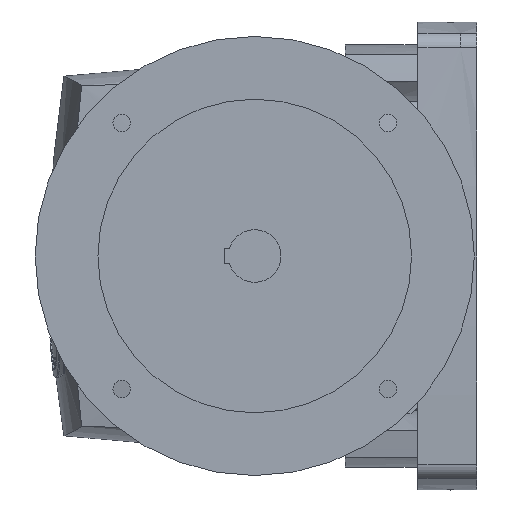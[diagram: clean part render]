
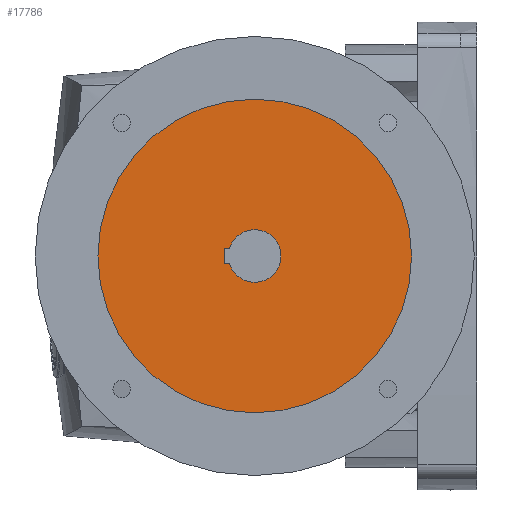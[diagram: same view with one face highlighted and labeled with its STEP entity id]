
A CAD part, left-side view. The second image highlights one B-rep face of the part: STEP entity #17786.
In plain terms, the highlighted planar face has unit normal (-1, 0, 0).
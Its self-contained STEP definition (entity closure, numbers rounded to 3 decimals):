
#6256=CARTESIAN_POINT('',(-232.,162.,0.));
#6257=DIRECTION('',(-1.,0.,0.));
#6258=DIRECTION('',(0.,-1.,0.));
#6259=AXIS2_PLACEMENT_3D('',#6256,#6257,#6258);
#6261=CARTESIAN_POINT('',(-232.,162.,0.));
#6262=DIRECTION('',(-1.,0.,0.));
#6263=DIRECTION('',(0.,1.,0.));
#6264=AXIS2_PLACEMENT_3D('',#6261,#6262,#6263);
#6266=DIRECTION('',(0.,0.,-1.));
#6267=VECTOR('',#6266,12.);
#6268=CARTESIAN_POINT('',(-232.,186.3,6.));
#6269=LINE('',#6268,#6267);
#6270=DIRECTION('',(0.,-1.,0.));
#6271=VECTOR('',#6270,4.175);
#6272=CARTESIAN_POINT('',(-232.,186.3,-6.));
#6273=LINE('',#6272,#6271);
#6274=CARTESIAN_POINT('',(-232.,162.,0.));
#6275=DIRECTION('',(-1.,0.,0.));
#6276=DIRECTION('',(0.,0.958,-0.286));
#6277=AXIS2_PLACEMENT_3D('',#6274,#6275,#6276);
#6279=DIRECTION('',(0.,1.,0.));
#6280=VECTOR('',#6279,4.175);
#6281=CARTESIAN_POINT('',(-232.,182.125,6.));
#6282=LINE('',#6281,#6280);
#8001=CARTESIAN_POINT('',(-232.,37.,0.));
#8002=CARTESIAN_POINT('',(-232.,287.,0.));
#8003=VERTEX_POINT('',#8001);
#8004=VERTEX_POINT('',#8002);
#8021=CARTESIAN_POINT('',(-232.,186.3,6.));
#8022=CARTESIAN_POINT('',(-232.,186.3,-6.));
#8023=VERTEX_POINT('',#8021);
#8024=VERTEX_POINT('',#8022);
#8025=CARTESIAN_POINT('',(-232.,182.125,-6.));
#8026=VERTEX_POINT('',#8025);
#8027=CARTESIAN_POINT('',(-232.,182.125,6.));
#8028=VERTEX_POINT('',#8027);
#17767=CARTESIAN_POINT('',(-232.,0.,0.));
#17768=DIRECTION('',(-1.,0.,0.));
#17769=DIRECTION('',(0.,-1.,0.));
#17770=AXIS2_PLACEMENT_3D('',#17767,#17768,#17769);
#17771=PLANE('',#17770);
#17772=ORIENTED_EDGE('',*,*,#17738,.F.);
#17773=ORIENTED_EDGE('',*,*,#17758,.F.);
#17774=EDGE_LOOP('',(#17772,#17773));
#17775=FACE_OUTER_BOUND('',#17774,.F.);
#17777=ORIENTED_EDGE('',*,*,#17776,.T.);
#17779=ORIENTED_EDGE('',*,*,#17778,.T.);
#17781=ORIENTED_EDGE('',*,*,#17780,.T.);
#17783=ORIENTED_EDGE('',*,*,#17782,.T.);
#17784=EDGE_LOOP('',(#17777,#17779,#17781,#17783));
#17785=FACE_BOUND('',#17784,.F.);
#17786=ADVANCED_FACE('',(#17775,#17785),#17771,.T.);
#6260=CIRCLE('',#6259,125.);
#6265=CIRCLE('',#6264,125.);
#6278=CIRCLE('',#6277,21.);
#17738=EDGE_CURVE('',#8003,#8004,#6260,.T.);
#17758=EDGE_CURVE('',#8004,#8003,#6265,.T.);
#17776=EDGE_CURVE('',#8023,#8024,#6269,.T.);
#17778=EDGE_CURVE('',#8024,#8026,#6273,.T.);
#17780=EDGE_CURVE('',#8026,#8028,#6278,.T.);
#17782=EDGE_CURVE('',#8028,#8023,#6282,.T.);
